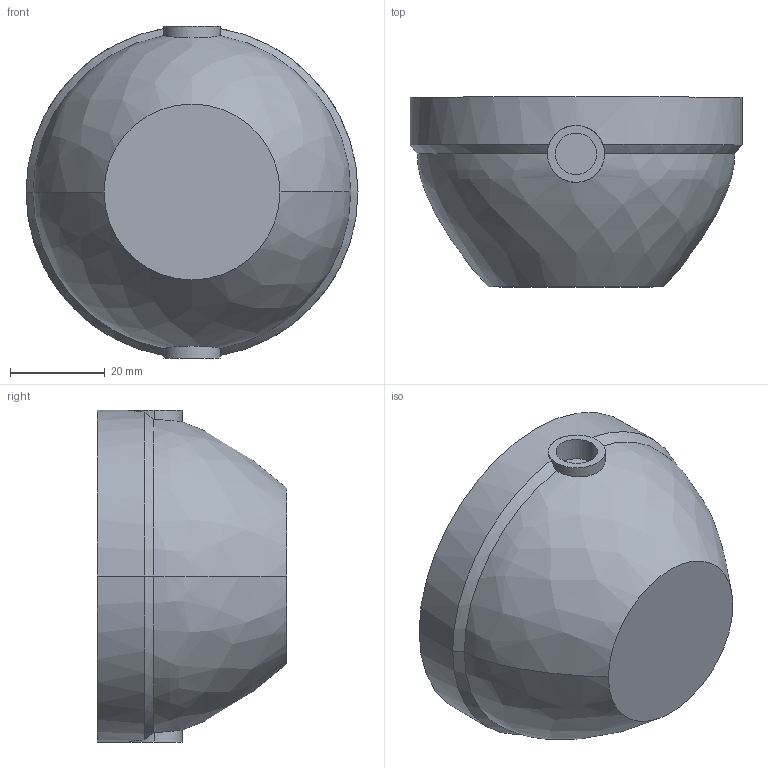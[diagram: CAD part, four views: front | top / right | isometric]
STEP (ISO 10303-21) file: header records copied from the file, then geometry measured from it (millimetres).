
FILE_DESCRIPTION (( 'STEP AP214' ), '1' );
FILE_NAME ('Ferris Wheel - Pot.STEP', '2022-06-13T02:43:13', ( '' ), ( '' ), 'SwSTEP 2.0', 'SolidWorks 2020', '' );
FILE_SCHEMA (( 'AUTOMOTIVE_DESIGN' ));
Length unit declared in the file: millimetre
Products named in the file (1): Ferris Wheel - Pot
Bounding box: 70 x 40 x 70 mm (x, y, z)
Volume: 28989 mm3; surface area: 18505.6 mm2
Topology: 1 solids, 1 shells, 38 faces, 93 edges, 60 vertices
Faces by surface type: cylinder 18, plane 9, bspline 8, cone 3
Entity records: 2966 total; most frequent: CARTESIAN_POINT 2109, ORIENTED_EDGE 186, DIRECTION 151, EDGE_CURVE 93, AXIS2_PLACEMENT_3D 69, VERTEX_POINT 60, B_SPLINE_CURVE_WITH_KNOTS 42, EDGE_LOOP 41
